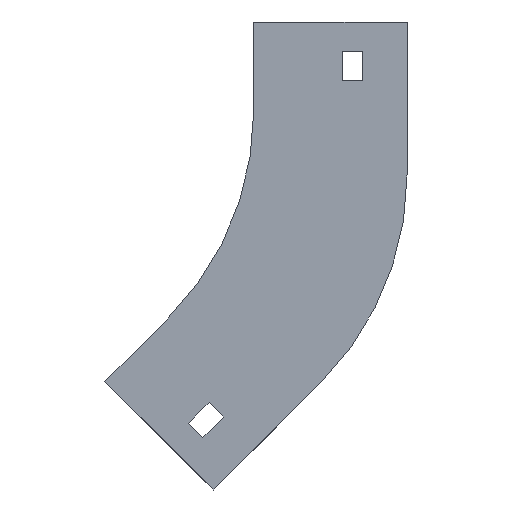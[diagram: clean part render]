
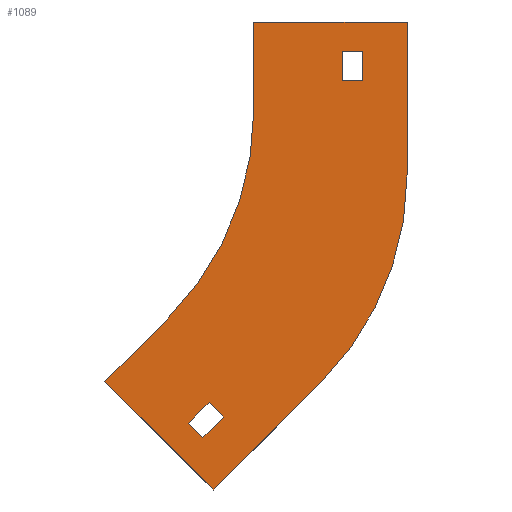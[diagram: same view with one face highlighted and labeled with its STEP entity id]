
A CAD part, left-side view. The second image highlights one B-rep face of the part: STEP entity #1089.
In plain terms, the highlighted planar face has unit normal (-1, 0, 0).
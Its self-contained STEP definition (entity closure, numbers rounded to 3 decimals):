
#8 = VERTEX_POINT ( 'NONE', #1315 ) ;
#19 = AXIS2_PLACEMENT_3D ( 'NONE', #1206, #636, #1075 ) ;
#35 = CARTESIAN_POINT ( 'NONE',  ( -27., 0., 0. ) ) ;
#55 = EDGE_CURVE ( 'NONE', #523, #241, #793, .T. ) ;
#65 = DIRECTION ( 'NONE',  ( 0., -1., 0. ) ) ;
#67 = DIRECTION ( 'NONE',  ( 0., 0., 1. ) ) ;
#70 = CARTESIAN_POINT ( 'NONE',  ( -27., 0., 0. ) ) ;
#71 = EDGE_CURVE ( 'NONE', #209, #428, #902, .T. ) ;
#89 = VECTOR ( 'NONE', #189, 1000. ) ;
#97 = EDGE_CURVE ( 'NONE', #1178, #367, #1021, .T. ) ;
#99 = CARTESIAN_POINT ( 'NONE',  ( -27., -37., -10. ) ) ;
#103 = VERTEX_POINT ( 'NONE', #187 ) ;
#105 = ORIENTED_EDGE ( 'NONE', *, *, #1311, .T. ) ;
#138 = DIRECTION ( 'NONE',  ( 0., -0.707, -0.707 ) ) ;
#147 = VERTEX_POINT ( 'NONE', #1153 ) ;
#148 = LINE ( 'NONE', #699, #899 ) ;
#160 = DIRECTION ( 'NONE',  ( 0., 0., 1. ) ) ;
#187 = CARTESIAN_POINT ( 'NONE',  ( -27., -30., -10. ) ) ;
#189 = DIRECTION ( 'NONE',  ( 0., 0.707, -0.707 ) ) ;
#195 = VECTOR ( 'NONE', #544, 1000. ) ;
#197 = LINE ( 'NONE', #99, #878 ) ;
#200 = CARTESIAN_POINT ( 'NONE',  ( -27., 15.147, -128.995 ) ) ;
#209 = VERTEX_POINT ( 'NONE', #834 ) ;
#212 = EDGE_LOOP ( 'NONE', ( #105, #858, #1183, #918 ) ) ;
#239 = ORIENTED_EDGE ( 'NONE', *, *, #1320, .F. ) ;
#241 = VERTEX_POINT ( 'NONE', #1051 ) ;
#262 = CARTESIAN_POINT ( 'NONE',  ( -27., 29.289, -100.711 ) ) ;
#266 = LINE ( 'NONE', #35, #666 ) ;
#272 = VERTEX_POINT ( 'NONE', #200 ) ;
#279 = CARTESIAN_POINT ( 'NONE',  ( -27., 22.218, -136.066 ) ) ;
#337 = CARTESIAN_POINT ( 'NONE',  ( -27., -22.711, -122.25 ) ) ;
#340 = EDGE_CURVE ( 'NONE', #147, #616, #1318, .T. ) ;
#342 = CARTESIAN_POINT ( 'NONE',  ( -27., -30., -20. ) ) ;
#349 = VECTOR ( 'NONE', #1297, 1000. ) ;
#364 = ORIENTED_EDGE ( 'NONE', *, *, #97, .F. ) ;
#367 = VERTEX_POINT ( 'NONE', #337 ) ;
#368 = DIRECTION ( 'NONE',  ( 1., 0., 0. ) ) ;
#370 = AXIS2_PLACEMENT_3D ( 'NONE', #1342, #368, #160 ) ;
#377 = EDGE_LOOP ( 'NONE', ( #437, #861, #529, #587 ) ) ;
#382 = DIRECTION ( 'NONE',  ( 0., -1., 0. ) ) ;
#386 = DIRECTION ( 'NONE',  ( 0., 0., 1. ) ) ;
#393 = CARTESIAN_POINT ( 'NONE',  ( -27., -37., -10. ) ) ;
#405 = EDGE_CURVE ( 'NONE', #428, #272, #891, .T. ) ;
#419 = LINE ( 'NONE', #652, #195 ) ;
#423 = CIRCLE ( 'NONE', #1177, 100. ) ;
#428 = VERTEX_POINT ( 'NONE', #792 ) ;
#437 = ORIENTED_EDGE ( 'NONE', *, *, #1169, .F. ) ;
#456 = ORIENTED_EDGE ( 'NONE', *, *, #859, .F. ) ;
#458 = DIRECTION ( 'NONE',  ( 0., 1., 0. ) ) ;
#470 = LINE ( 'NONE', #778, #716 ) ;
#477 = DIRECTION ( 'NONE',  ( 0., -0.707, 0.707 ) ) ;
#523 = VERTEX_POINT ( 'NONE', #938 ) ;
#524 = LINE ( 'NONE', #279, #89 ) ;
#529 = ORIENTED_EDGE ( 'NONE', *, *, #405, .F. ) ;
#532 = CARTESIAN_POINT ( 'NONE',  ( -27., 13.733, -158.693 ) ) ;
#544 = DIRECTION ( 'NONE',  ( 0., 0., -1. ) ) ;
#570 = CARTESIAN_POINT ( 'NONE',  ( -27., 22.218, -136.066 ) ) ;
#574 = DIRECTION ( 'NONE',  ( 0., 0.707, 0.707 ) ) ;
#575 = DIRECTION ( 'NONE',  ( 0., -0.707, 0.707 ) ) ;
#581 = VERTEX_POINT ( 'NONE', #70 ) ;
#587 = ORIENTED_EDGE ( 'NONE', *, *, #71, .F. ) ;
#616 = VERTEX_POINT ( 'NONE', #1377 ) ;
#630 = DIRECTION ( 'NONE',  ( 0., 0., -1. ) ) ;
#636 = DIRECTION ( 'NONE',  ( 1., 0., 0. ) ) ;
#652 = CARTESIAN_POINT ( 'NONE',  ( -27., -52., -51.539 ) ) ;
#657 = ORIENTED_EDGE ( 'NONE', *, *, #773, .F. ) ;
#666 = VECTOR ( 'NONE', #67, 1000. ) ;
#670 = CARTESIAN_POINT ( 'NONE',  ( -27., -30., -10. ) ) ;
#699 = CARTESIAN_POINT ( 'NONE',  ( -27., -52., 0. ) ) ;
#716 = VECTOR ( 'NONE', #1026, 1000. ) ;
#733 = VECTOR ( 'NONE', #386, 1000. ) ;
#735 = VECTOR ( 'NONE', #138, 1000. ) ;
#738 = VECTOR ( 'NONE', #574, 1000. ) ;
#744 = VERTEX_POINT ( 'NONE', #532 ) ;
#762 = LINE ( 'NONE', #1201, #349 ) ;
#773 = EDGE_CURVE ( 'NONE', #8, #581, #266, .T. ) ;
#776 = CARTESIAN_POINT ( 'NONE',  ( -27., 15.147, -128.995 ) ) ;
#778 = CARTESIAN_POINT ( 'NONE',  ( -27., 13.733, -158.693 ) ) ;
#792 = CARTESIAN_POINT ( 'NONE',  ( -27., 10.197, -133.945 ) ) ;
#793 = LINE ( 'NONE', #262, #1403 ) ;
#810 = LINE ( 'NONE', #670, #924 ) ;
#834 = CARTESIAN_POINT ( 'NONE',  ( -27., 17.269, -141.016 ) ) ;
#835 = EDGE_LOOP ( 'NONE', ( #456, #657, #1019, #1114, #239, #1074, #364, #1351 ) ) ;
#837 = VERTEX_POINT ( 'NONE', #1324 ) ;
#842 = DIRECTION ( 'NONE',  ( -1., 0., 0. ) ) ;
#858 = ORIENTED_EDGE ( 'NONE', *, *, #1279, .T. ) ;
#859 = EDGE_CURVE ( 'NONE', #581, #837, #148, .T. ) ;
#861 = ORIENTED_EDGE ( 'NONE', *, *, #956, .F. ) ;
#878 = VECTOR ( 'NONE', #630, 1000. ) ;
#882 = FACE_BOUND ( 'NONE', #212, .T. ) ;
#891 = LINE ( 'NONE', #776, #738 ) ;
#899 = VECTOR ( 'NONE', #382, 1000. ) ;
#902 = LINE ( 'NONE', #1140, #1085 ) ;
#918 = ORIENTED_EDGE ( 'NONE', *, *, #340, .T. ) ;
#921 = LINE ( 'NONE', #570, #735 ) ;
#924 = VECTOR ( 'NONE', #65, 1000. ) ;
#938 = CARTESIAN_POINT ( 'NONE',  ( -27., 50.503, -121.924 ) ) ;
#939 = VERTEX_POINT ( 'NONE', #393 ) ;
#956 = EDGE_CURVE ( 'NONE', #272, #1327, #524, .T. ) ;
#958 = CARTESIAN_POINT ( 'NONE',  ( -27., 100., -30. ) ) ;
#969 = EDGE_CURVE ( 'NONE', #241, #8, #423, .T. ) ;
#1002 = CARTESIAN_POINT ( 'NONE',  ( -27., -52., -51.539 ) ) ;
#1019 = ORIENTED_EDGE ( 'NONE', *, *, #969, .F. ) ;
#1021 = CIRCLE ( 'NONE', #370, 100. ) ;
#1026 = DIRECTION ( 'NONE',  ( 0., 0.707, -0.707 ) ) ;
#1029 = EDGE_CURVE ( 'NONE', #939, #147, #197, .T. ) ;
#1034 = LINE ( 'NONE', #1360, #733 ) ;
#1051 = CARTESIAN_POINT ( 'NONE',  ( -27., 29.289, -100.711 ) ) ;
#1074 = ORIENTED_EDGE ( 'NONE', *, *, #1240, .F. ) ;
#1075 = DIRECTION ( 'NONE',  ( 0., 0., -1. ) ) ;
#1081 = PLANE ( 'NONE',  #19 ) ;
#1085 = VECTOR ( 'NONE', #477, 1000. ) ;
#1089 = ADVANCED_FACE ( 'NONE', ( #1295, #882, #1184 ), #1081, .F. ) ;
#1099 = CARTESIAN_POINT ( 'NONE',  ( -27., 22.218, -136.066 ) ) ;
#1109 = EDGE_CURVE ( 'NONE', #837, #1178, #419, .T. ) ;
#1114 = ORIENTED_EDGE ( 'NONE', *, *, #55, .F. ) ;
#1140 = CARTESIAN_POINT ( 'NONE',  ( -27., 17.269, -141.016 ) ) ;
#1153 = CARTESIAN_POINT ( 'NONE',  ( -27., -37., -20. ) ) ;
#1169 = EDGE_CURVE ( 'NONE', #1327, #209, #921, .T. ) ;
#1177 = AXIS2_PLACEMENT_3D ( 'NONE', #958, #842, #1272 ) ;
#1178 = VERTEX_POINT ( 'NONE', #1002 ) ;
#1183 = ORIENTED_EDGE ( 'NONE', *, *, #1029, .T. ) ;
#1184 = FACE_BOUND ( 'NONE', #377, .T. ) ;
#1201 = CARTESIAN_POINT ( 'NONE',  ( -27., 50.503, -121.924 ) ) ;
#1206 = CARTESIAN_POINT ( 'NONE',  ( -27., 100., -30. ) ) ;
#1240 = EDGE_CURVE ( 'NONE', #367, #744, #470, .T. ) ;
#1268 = VECTOR ( 'NONE', #458, 1000. ) ;
#1272 = DIRECTION ( 'NONE',  ( 0., 0., -1. ) ) ;
#1279 = EDGE_CURVE ( 'NONE', #103, #939, #810, .T. ) ;
#1295 = FACE_OUTER_BOUND ( 'NONE', #835, .T. ) ;
#1297 = DIRECTION ( 'NONE',  ( 0., 0.707, 0.707 ) ) ;
#1311 = EDGE_CURVE ( 'NONE', #616, #103, #1034, .T. ) ;
#1315 = CARTESIAN_POINT ( 'NONE',  ( -27., 0., -30. ) ) ;
#1318 = LINE ( 'NONE', #342, #1268 ) ;
#1320 = EDGE_CURVE ( 'NONE', #744, #523, #762, .T. ) ;
#1324 = CARTESIAN_POINT ( 'NONE',  ( -27., -52., 0. ) ) ;
#1327 = VERTEX_POINT ( 'NONE', #1099 ) ;
#1342 = CARTESIAN_POINT ( 'NONE',  ( -27., 48., -51.539 ) ) ;
#1351 = ORIENTED_EDGE ( 'NONE', *, *, #1109, .F. ) ;
#1360 = CARTESIAN_POINT ( 'NONE',  ( -27., -30., -10. ) ) ;
#1377 = CARTESIAN_POINT ( 'NONE',  ( -27., -30., -20. ) ) ;
#1403 = VECTOR ( 'NONE', #575, 1000. ) ;
